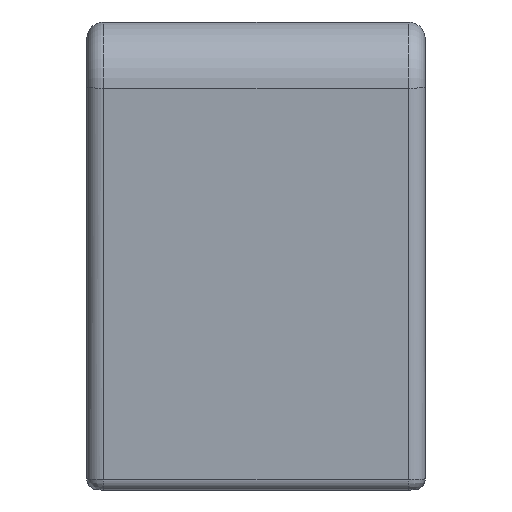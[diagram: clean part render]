
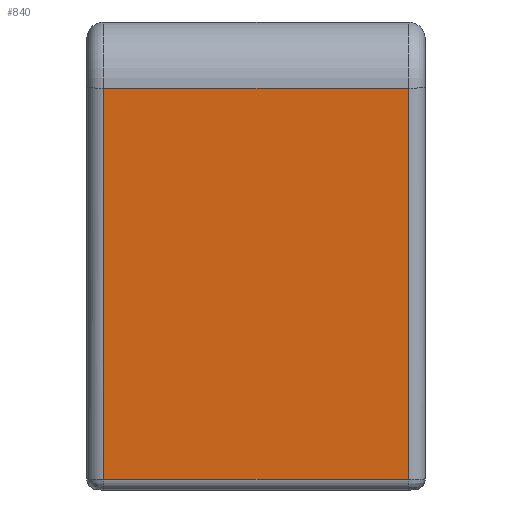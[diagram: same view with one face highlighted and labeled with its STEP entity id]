
A CAD part, left-side view. The second image highlights one B-rep face of the part: STEP entity #840.
In plain terms, the highlighted planar face has unit normal (-0.998, 0, -0.067).
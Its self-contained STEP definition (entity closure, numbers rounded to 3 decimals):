
#9 = EDGE_LOOP ( 'NONE', ( #3198, #3196, #3195, #3193 ) ) ;
#160 = AXIS2_PLACEMENT_3D ( 'NONE', #1966, #1967, #1968 ) ;
#542 = EDGE_CURVE ( 'NONE', #4958, #644, #4116, .T. ) ;
#545 = EDGE_CURVE ( 'NONE', #4958, #4968, #4127, .T. ) ;
#555 = EDGE_CURVE ( 'NONE', #4963, #4968, #4155, .T. ) ;
#563 = EDGE_CURVE ( 'NONE', #644, #4963, #4176, .T. ) ;
#644 = VERTEX_POINT ( 'NONE', #979 ) ;
#840 = ADVANCED_FACE ( 'NONE', ( #4563 ), #1965, .T. ) ;
#979 = CARTESIAN_POINT ( 'NONE',  ( -140.063, 13.5, -6.067 ) ) ;
#1965 = PLANE ( 'NONE',  #160 ) ;
#1966 = CARTESIAN_POINT ( 'NONE',  ( -140., 15., -7. ) ) ;
#1967 = DIRECTION ( 'NONE',  ( -0.998, 0., -0.067 ) ) ;
#1968 = DIRECTION ( 'NONE',  ( -0.067, 0., 0.998 ) ) ;
#2873 = CARTESIAN_POINT ( 'NONE',  ( -142.388, 13.5, 28.632 ) ) ;
#2878 = CARTESIAN_POINT ( 'NONE',  ( -140.063, -13.5, -6.067 ) ) ;
#2883 = CARTESIAN_POINT ( 'NONE',  ( -142.388, -13.5, 28.632 ) ) ;
#3193 = ORIENTED_EDGE ( 'NONE', *, *, #545, .F. ) ;
#3195 = ORIENTED_EDGE ( 'NONE', *, *, #555, .T. ) ;
#3196 = ORIENTED_EDGE ( 'NONE', *, *, #563, .T. ) ;
#3198 = ORIENTED_EDGE ( 'NONE', *, *, #542, .T. ) ;
#3932 = DIRECTION ( 'NONE',  ( 0., -1., 0. ) ) ;
#3934 = CARTESIAN_POINT ( 'NONE',  ( -140.063, 15., -6.067 ) ) ;
#3980 = DIRECTION ( 'NONE',  ( -0.067, 0., 0.998 ) ) ;
#3981 = CARTESIAN_POINT ( 'NONE',  ( -142.388, -13.5, 28.632 ) ) ;
#4022 = DIRECTION ( 'NONE',  ( 0., -1., 0. ) ) ;
#4023 = CARTESIAN_POINT ( 'NONE',  ( -142.388, 15., 28.632 ) ) ;
#4031 = DIRECTION ( 'NONE',  ( 0.067, 0., -0.998 ) ) ;
#4032 = CARTESIAN_POINT ( 'NONE',  ( -140., 13.5, -7. ) ) ;
#4116 = LINE ( 'NONE', #4032, #4118 ) ;
#4118 = VECTOR ( 'NONE', #4031, 1000. ) ;
#4127 = LINE ( 'NONE', #4023, #4129 ) ;
#4129 = VECTOR ( 'NONE', #4022, 1000. ) ;
#4155 = LINE ( 'NONE', #3981, #4157 ) ;
#4157 = VECTOR ( 'NONE', #3980, 1000. ) ;
#4176 = LINE ( 'NONE', #3934, #4178 ) ;
#4178 = VECTOR ( 'NONE', #3932, 1000. ) ;
#4563 = FACE_OUTER_BOUND ( 'NONE', #9, .T. ) ;
#4958 = VERTEX_POINT ( 'NONE', #2873 ) ;
#4963 = VERTEX_POINT ( 'NONE', #2878 ) ;
#4968 = VERTEX_POINT ( 'NONE', #2883 ) ;
